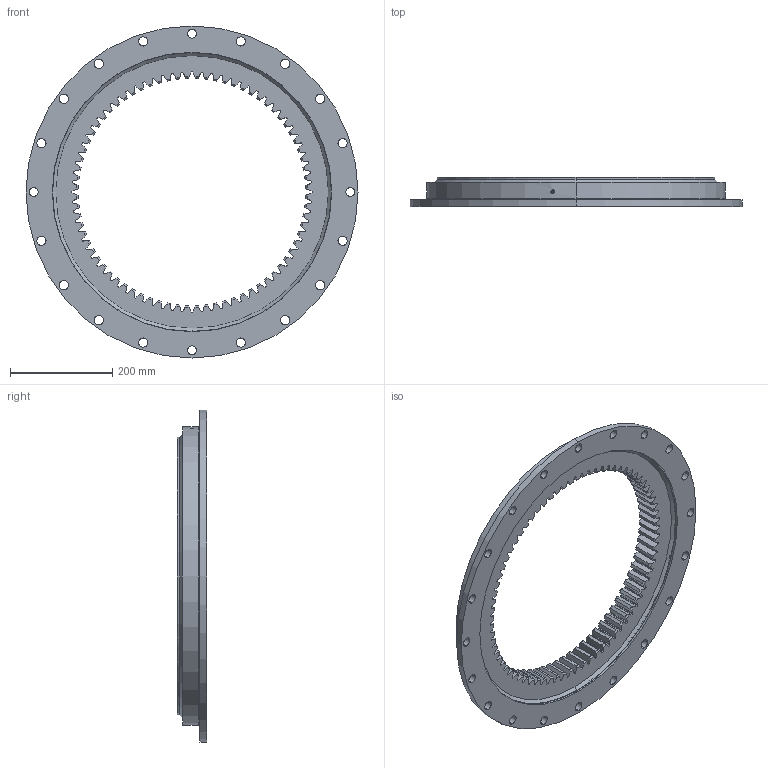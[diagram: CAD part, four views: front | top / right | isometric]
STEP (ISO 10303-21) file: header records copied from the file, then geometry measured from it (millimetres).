
FILE_DESCRIPTION (( 'STEP AP214' ), '1' );
FILE_NAME ('B1120-1-0650AC.STEP', '2022-11-24T06:24:05', ( '' ), ( '' ), 'SwSTEP 2.0', 'SolidWorks 2020', '' );
FILE_SCHEMA (( 'AUTOMOTIVE_DESIGN' ));
Length unit declared in the file: millimetre
Products named in the file (1): B1120-1-0650AC
Bounding box: 650 x 57 x 650 mm (x, y, z)
Volume: 5510753.2 mm3; surface area: 877642.6 mm2
Topology: 4 solids, 4 shells, 721 faces, 2048 edges, 1326 vertices
Faces by surface type: cone 224, cylinder 176, plane 167, bspline 152, torus 2
Entity records: 24151 total; most frequent: CARTESIAN_POINT 6596, ORIENTED_EDGE 4032, DIRECTION 3084, EDGE_CURVE 2016, VERTEX_POINT 1326, AXIS2_PLACEMENT_3D 1114, VECTOR 856, LINE 856
